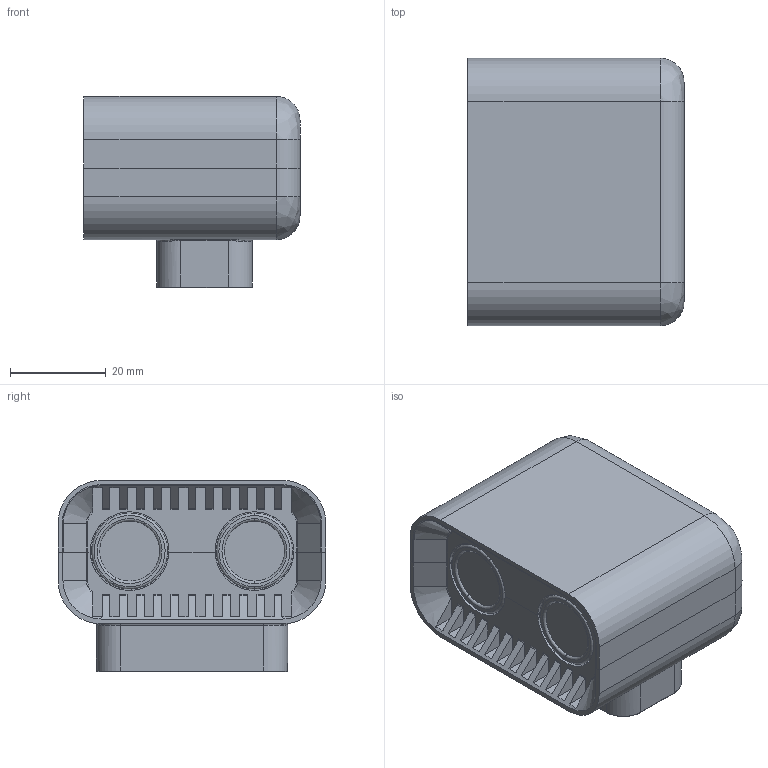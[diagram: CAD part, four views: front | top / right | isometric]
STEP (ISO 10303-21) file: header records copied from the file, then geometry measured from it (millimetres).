
FILE_DESCRIPTION((''),'2;1');
FILE_NAME('USBETA_ASM_ASM','2019-06-11T',('Administrator'),(''),'PRO/ENGINEER BY PARAMETRIC TECHNOLOGY CORPORATION, 2007450','PRO/ENGINEER BY PARAMETRIC TECHNOLOGY CORPORATION, 2007450','');
FILE_SCHEMA(('AUTOMOTIVE_DESIGN_CC2 { 1 2 10303 214 -1 1 5 2 }'));
Length unit declared in the file: millimetre
Products named in the file (23): BOARD_STEP_ANY_1; HC-SR04_PCB__1__STEP_ANY_ASM_1_ASM; USPCBA_ANY_ASM_1_ASM; BOSS-EXTRUDE17_2; CHAMFER1_2; USCA_2_ANY_ASM_1_ASM; RJ45X1A_ANY_1; PRT0001_1; PRT0002_1; PRT0003_1; PRT0004_1; PRT0005_1; ASM0006_ASM_1_ASM; PRT0006_1; PRT0007_1; PRT0008_1; PRT0009_1; PRT0010_1; PRT0011_1; ASM0005_ASM_1_ASM; USBETA_ANY_ASM_2_ASM; USBETA_ASM_1_ASM; USBETA_ASM_ASM
Assembly tree (60 placements, depth 6):
  USBETA_ASM_ASM
    USBETA_ASM_1_ASM
      USBETA_ANY_ASM_2_ASM
        USPCBA_ANY_ASM_1_ASM
          HC-SR04_PCB__1__STEP_ANY_ASM_1_ASM
            BOARD_STEP_ANY_1
        USCA_2_ANY_ASM_1_ASM
          BOSS-EXTRUDE17_2
          CHAMFER1_2
        RJ45X1A_ANY_1
        ASM0005_ASM_1_ASM
          PRT0001_1  x16
          ASM0006_ASM_1_ASM  x20
            PRT0002_1
            PRT0003_1
            PRT0004_1
            PRT0005_1
          PRT0006_1  x2
          PRT0007_1
          PRT0008_1  x2
          PRT0009_1  x3
          PRT0010_1
          PRT0011_1
Bounding box: 45.22 x 56 x 40 mm (x, y, z)
Volume: 27477.5 mm3; surface area: 36894.8 mm2
Topology: 110 solids, 110 shells, 4534 faces, 12365 edges, 8188 vertices
Faces by surface type: plane 2987, cylinder 1266, bspline 136, torus 115, cone 30
Entity records: 103963 total; most frequent: CARTESIAN_POINT 18339, ORIENTED_EDGE 12812, DIRECTION 12003, PRESENTATION_STYLE_ASSIGNMENT 6798, EDGE_CURVE 6406, STYLED_ITEM 5842, CURVE_STYLE 5756, VERTEX_POINT 4404
